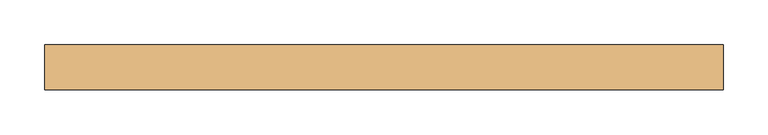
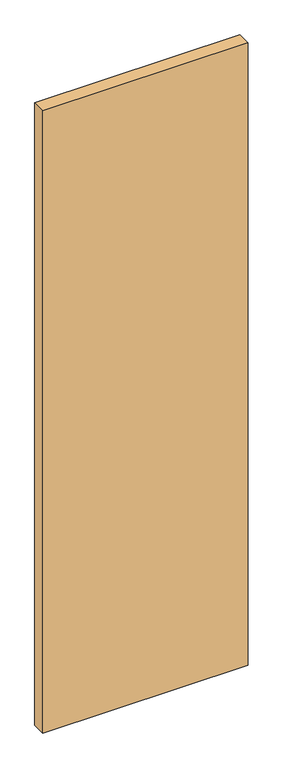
"""IFC4 building model written with IfcOpenShell, lengths in millimetres: door geometry, Planitar - Swap_Flush Panel : Planitar - Swap_Flush Panel."""

from ifc_helpers import new_model, si_unit, origin, origin_with_axes, place, context, project, spatial, polyline, outline, extrude, source, transform, mapped, element, save


def door_de97ecf0(model_context):
    return source(origin(), model_context, "Body", "SweptSolid", [
        extrude(outline(polyline([(381.0, -25.4), (-381.0, -25.4), (-381.0, 25.4), (381.0, 25.4), (381.0, -25.4)])), origin_with_axes(), (0.0, 0.0, 1.0), 2438.4),
    ])


if __name__ == "__main__":
    model = new_model("IFC4")
    model_context = context("Model", 3, world=origin())
    ifc_project = project(units=[si_unit("LENGTHUNIT", "METRE", prefix="MILLI")], contexts=[model_context])
    site = spatial("IfcSite", under=ifc_project)
    building = spatial("IfcBuilding", under=site)
    placement = place(None, origin())
    door_shape = door_de97ecf0(model_context)
    element("IfcDoor", 1, ObjectType="Planitar - Swap_Flush Panel : Planitar - Swap_Flush Panel", at=placement, inside=building, context=model_context, shape_type="MappedRepresentation", body=[
        mapped(door_shape, transform((0.0, 0.0, 0.0), x_axis=(1.0, 0.0, 0.0), y_axis=(0.0, 1.0, 0.0), z_axis=(0.0, 0.0, 1.0))),
    ])
    save(model, "model.ifc")
